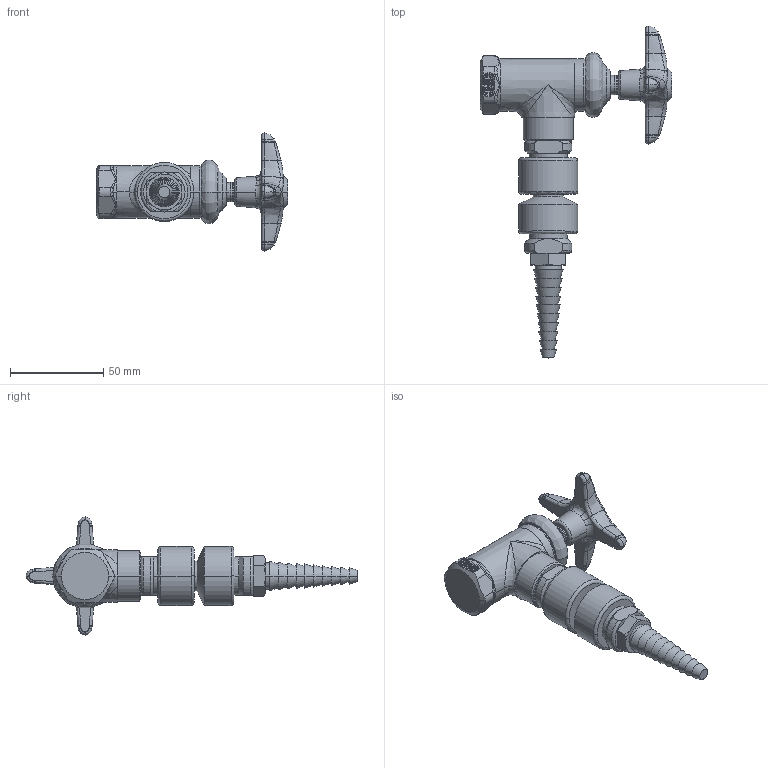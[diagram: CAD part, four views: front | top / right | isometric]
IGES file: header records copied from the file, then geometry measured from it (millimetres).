
Start section:  PTC IGES file: LWV2-C42.igs
Global section: file name: LWV2-C42.igs; native system: Creo Parametric by PTC Inc.; preprocessor: 2014500; author: usch_engrender; organization: Unknown; date: 20150903.150711; units: inch
Bounding box: 102.96 x 178.42 x 63.42 mm (x, y, z)
Volume: 113206.4 mm3; surface area: 26390.5 mm2
Topology: 1 solids, 3 shells, 505 faces, 1163 edges, 688 vertices
Faces by surface type: bspline 277, revolution 228
